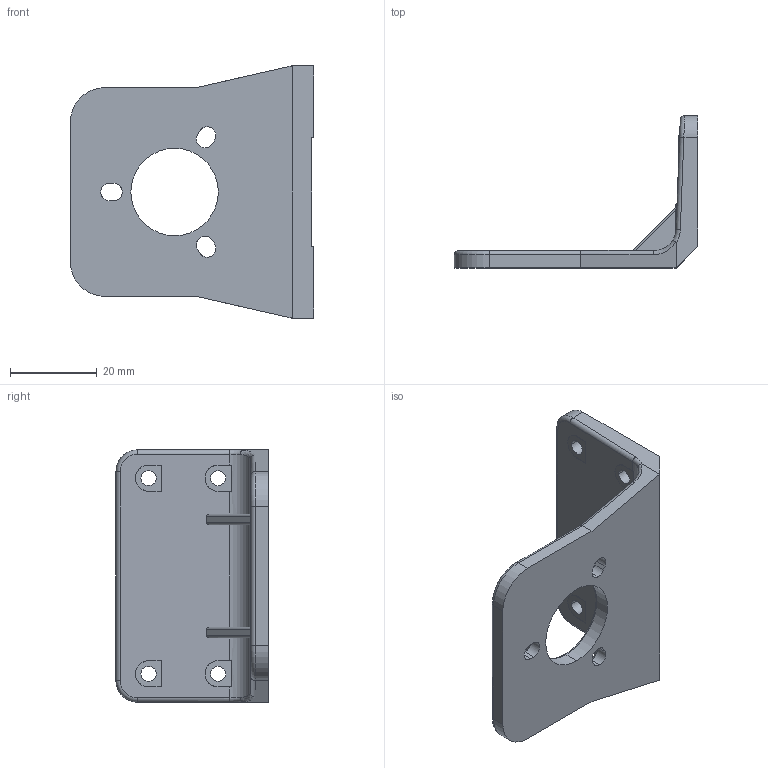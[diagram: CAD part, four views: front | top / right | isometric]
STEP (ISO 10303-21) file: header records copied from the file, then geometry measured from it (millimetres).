
FILE_DESCRIPTION (( 'STEP AP203' ), '1' );
FILE_NAME ('38臏翉盓殤.STEP', '2021-07-26T02:16:46', ( 'Windows 蚚誧' ), ( '' ), 'SwSTEP 2.0', 'SolidWorks 2018', '' );
FILE_SCHEMA (( 'CONFIG_CONTROL_DESIGN' ));
Length unit declared in the file: millimetre
Products named in the file (1): 38臏翉盓殤
Bounding box: 56 x 35 x 58 mm (x, y, z)
Volume: 16184.3 mm3; surface area: 10198.1 mm2
Topology: 1 solids, 1 shells, 222 faces, 604 edges, 390 vertices
Faces by surface type: cylinder 111, plane 93, cone 8, torus 8, bspline 2
Entity records: 7691 total; most frequent: CARTESIAN_POINT 1976, ORIENTED_EDGE 1208, DIRECTION 1161, EDGE_CURVE 604, AXIS2_PLACEMENT_3D 423, VERTEX_POINT 390, VECTOR 315, LINE 315
